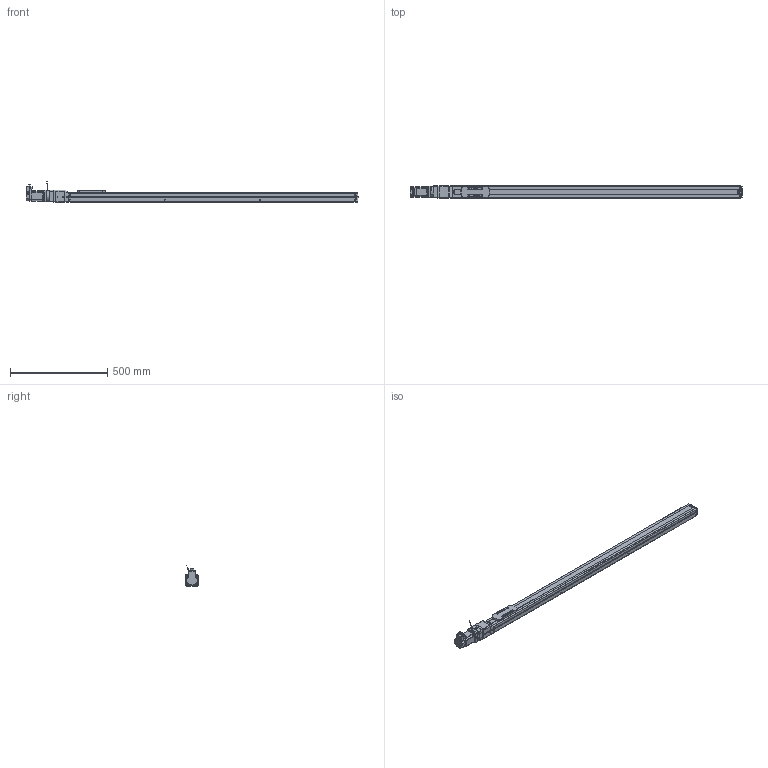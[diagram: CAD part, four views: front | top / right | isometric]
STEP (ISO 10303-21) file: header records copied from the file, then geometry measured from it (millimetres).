
FILE_DESCRIPTION(('FreeCAD Model'),'2;1');
FILE_NAME('Open CASCADE Shape Model','2023-08-03T17:23:12',('Author'),( ''),'Open CASCADE STEP processor 7.5','FreeCAD','Unknown');
FILE_SCHEMA(('AUTOMOTIVE_DESIGN { 1 0 10303 214 1 1 1 1 }'));
Length unit declared in the file: millimetre
Products named in the file (21): RMJ1211_BRK; Shapes; Shapes001; Shapes002; Shapes003; Shapes004; Shapes005; Shapes006; Shapes007; Shapes008; Shapes009; Shapes010; Shapes011; Shapes012; Body; BXW-03-10H-8_STEP; Body001; KSF6-20-1250-0-A0(0); KSF6---(Cover); KSF6-10-0050---(slider); KSF6-20-01250-A0 (01250A0No0)---(body)
Assembly tree (20 placements, depth 3):
  RMJ1211_BRK
    Shapes
    Shapes001
    Shapes002
    Shapes003
    Shapes004
    Shapes005
    Shapes006
    Shapes007
    Shapes008
    Shapes009
    Shapes010
    Shapes011
    Shapes012
    Body
    BXW-03-10H-8_STEP
    Body001
    KSF6-20-1250-0-A0(0)
      KSF6---(Cover)
      KSF6-10-0050---(slider)
      KSF6-20-01250-A0 (01250A0No0)---(body)
Bounding box: 1710.47 x 66.4 x 107.78 mm (x, y, z)
Volume: 5300811.5 mm3; surface area: 558631.7 mm2
Topology: 19 solids, 19 shells, 1922 faces, 5086 edges, 3337 vertices
Faces by surface type: plane 1267, cylinder 505, cone 91, bspline 28, torus 27, revolution 4
Full cylindrical faces by diameter (mm): 2.113 x8, 2.6 x4, 3 x5, 3.242 x5, 4.134 x4, 4.2 x7, 4.3 x1, 4.5 x2, 5 x1, 5.5 x22, 6.5 x4, 7.5 x4, 9 x1, 9.5 x16, 12 x1, 15.5 x1, 17 x1, 38.1 x1, 38.2 x1, 44 x1, 50 x2, 56.2 x1
Entity records: 136569 total; most frequent: CARTESIAN_POINT 31710, DIRECTION 19345, LINE 12492, VECTOR 12492, ORIENTED_EDGE 10124, PCURVE 10124, DEFINITIONAL_REPRESENTATION 10124, EDGE_CURVE 5062
